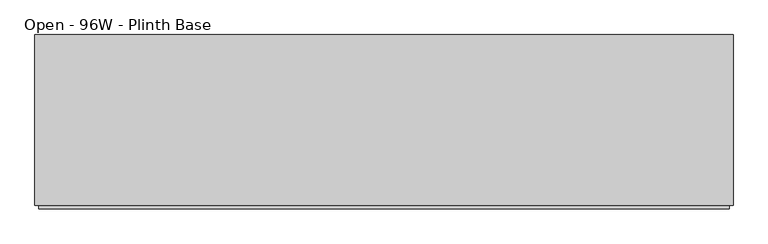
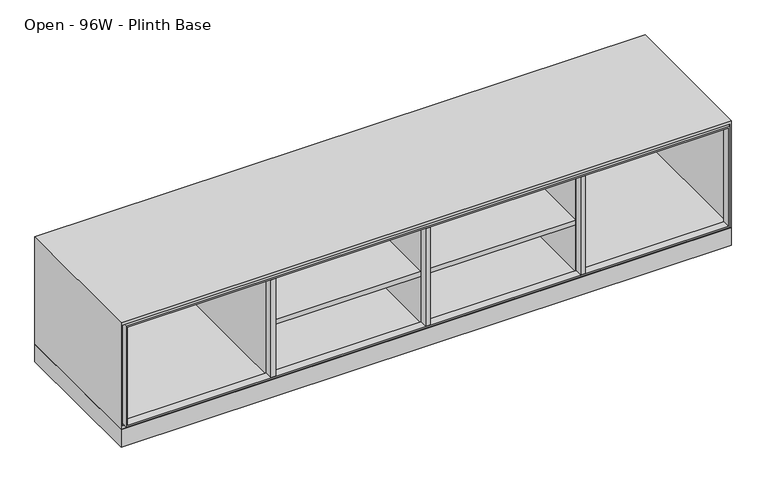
"""IFC4 building model written with IfcOpenShell, lengths in millimetres: furniture geometry, Steelcase Coalesse - Exponents - Storage - Credenza - 21H : Open - 96W - Plinth Base."""

from ifc_helpers import new_model, si_unit, point, frame, frame_2d, origin, origin_with_axes, place, context, project, spatial, polyline, circle_curve, trimmed, segment, composite_curve, outline, extrude, faceted_brep, source, transform, mapped, element, save


def open_96w_plinth_base_d262260d(model_context):
    return source(origin(), model_context, "Body", "SolidModel", [
        faceted_brep([(6.35, 31.75, 520.7), (6.35, 31.75, 95.25), (6.35, 622.3, 95.25), (6.35, 622.3, 520.7), (2432.05, 622.3, 95.25), (2432.05, 622.3, 520.7), (2432.05, 31.75, 95.25), (2432.05, 31.75, 520.7), (0.0, 31.75, 82.55), (2438.4, 31.75, 82.55), (2438.4, 31.75, 533.4), (0.0, 31.75, 533.4), (2438.4, 628.65, 82.55), (2438.4, 628.65, 533.4), (0.0, 628.65, 82.55), (0.0, 628.65, 533.4)], [[[0, 1, 2, 3]], [[3, 2, 4, 5]], [[5, 4, 6, 7]], [[8, 9, 10, 11], [7, 6, 1, 0]], [[10, 9, 12, 13]], [[13, 12, 14, 15]], [[15, 14, 8, 11]], [[7, 0, 3, 5]], [[10, 13, 15, 11]], [[1, 6, 4, 2]], [[12, 9, 8, 14]]]),
        extrude(outline(polyline([(520.7, 2425.7), (520.7, 12.7), (95.25, 12.7), (95.25, 2425.7), (520.7, 2425.7)]), holes=[polyline([(514.35, 2419.35), (101.6, 2419.35), (101.6, 19.05), (514.35, 19.05), (514.35, 2419.35)])]), frame((0.0, 19.05, 0.0), z_axis=(0.0, 1.0, 0.0), x_axis=(0.0, 0.0, 1.0)), (0.0, 0.0, 1.0), 31.75),
        extrude(outline(composite_curve([segment(trimmed(circle_curve(frame_2d((19.05, 593.5667033)), 6.35), [point((12.7, 593.5667033))], [point((25.4, 593.5667033))], False, "CARTESIAN"), True, "CONTINUOUS"), segment(trimmed(circle_curve(frame_2d((19.05, 593.5667033)), 6.35), [point((25.4, 593.5667033))], [point((12.7, 593.5667033))], False, "CARTESIAN"), True, "CONTINUOUS")], self_intersect=False)), origin_with_axes(), (0.0, 0.0, 1.0), 6.35),
        extrude(outline(composite_curve([segment(trimmed(circle_curve(frame_2d((19.05, 66.7867854)), 6.35), [point((12.7, 66.7867854))], [point((25.4, 66.7867854))], False, "CARTESIAN"), True, "CONTINUOUS"), segment(trimmed(circle_curve(frame_2d((19.05, 66.7867854)), 6.35), [point((25.4, 66.7867854))], [point((12.7, 66.7867854))], False, "CARTESIAN"), True, "CONTINUOUS")], self_intersect=False)), origin_with_axes(), (0.0, 0.0, 1.0), 6.35),
        extrude(outline(composite_curve([segment(trimmed(circle_curve(frame_2d((2419.35, 593.5667033)), 6.35), [point((2413.0, 593.5667033))], [point((2425.7, 593.5667033))], False, "CARTESIAN"), True, "CONTINUOUS"), segment(trimmed(circle_curve(frame_2d((2419.35, 593.5667033)), 6.35), [point((2425.7, 593.5667033))], [point((2413.0, 593.5667033))], False, "CARTESIAN"), True, "CONTINUOUS")], self_intersect=False)), origin_with_axes(), (0.0, 0.0, 1.0), 6.35),
        extrude(outline(composite_curve([segment(trimmed(circle_curve(frame_2d((2419.35, 66.7867854)), 6.35), [point((2413.0, 66.7867854))], [point((2425.7, 66.7867854))], False, "CARTESIAN"), True, "CONTINUOUS"), segment(trimmed(circle_curve(frame_2d((2419.35, 66.7867854)), 6.35), [point((2425.7, 66.7867854))], [point((2413.0, 66.7867854))], False, "CARTESIAN"), True, "CONTINUOUS")], self_intersect=False)), origin_with_axes(), (0.0, 0.0, 1.0), 6.35),
        extrude(outline(polyline([(0.0, -19.05), (0.0, 0.0), (31.75, 0.0), (31.75, -19.05), (0.0, -19.05)])), frame((1828.8, 19.05, 101.6), z_axis=(2.934541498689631e-12, 0.0, 1.0), x_axis=(0.0, 1.0, 0.0)), (0.0, 0.0, 1.0), 412.75),
        extrude(outline(polyline([(0.0, -19.05), (0.0, 0.0), (31.75, 0.0), (31.75, -19.05), (0.0, -19.05)])), frame((1209.675, 19.05, 101.6), z_axis=(3.1477043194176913e-12, 0.0, 1.0), x_axis=(0.0, 1.0, 0.0)), (0.0, 0.0, 1.0), 412.75),
        extrude(outline(polyline([(0.0, -19.05), (0.0, 0.0), (31.75, 0.0), (31.75, -19.05), (0.0, -19.05)])), frame((590.55, 19.05, 101.6), z_axis=(3.3608671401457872e-12, 0.0, 1.0), x_axis=(0.0, 1.0, 0.0)), (0.0, 0.0, 1.0), 412.75),
        extrude(outline(polyline([(1209.675, 609.6), (1228.725, 609.6), (1228.725, 50.8), (1209.675, 50.8), (1209.675, 609.6)])), frame((0.0, 0.0, 95.25), z_axis=(0.0, 0.0, 1.0), x_axis=(1.0, 0.0, 0.0)), (0.0, 0.0, 1.0), 425.45),
        extrude(outline(polyline([(1828.8, 609.6), (1847.85, 609.6), (1847.85, 50.8), (1828.8, 50.8), (1828.8, 609.6)])), frame((0.0, 0.0, 95.25), z_axis=(0.0, 0.0, 1.0), x_axis=(1.0, 0.0, 0.0)), (0.0, 0.0, 1.0), 425.45),
        extrude(outline(polyline([(1828.8, 50.8), (1228.725, 50.8), (1228.725, 609.6), (1828.8, 609.6), (1828.8, 50.8)])), frame((0.0, 0.0, 295.275), z_axis=(0.0, 0.0, 1.0), x_axis=(1.0, 0.0, 0.0)), (0.0, 0.0, 1.0), 19.05),
        extrude(outline(polyline([(1209.675, 50.8), (609.6, 50.8), (609.6, 609.6), (1209.675, 609.6), (1209.675, 50.8)])), frame((0.0, 0.0, 295.275), z_axis=(0.0, 0.0, 1.0), x_axis=(1.0, 0.0, 0.0)), (0.0, 0.0, 1.0), 19.05),
        extrude(outline(polyline([(2438.4, 628.65), (2438.4, 31.75), (0.0, 31.75), (0.0, 628.65), (2438.4, 628.65)]), holes=[polyline([(2419.35, 622.3), (19.05, 622.3), (19.05, 38.1), (2419.35, 38.1), (2419.35, 622.3)])]), frame((0.0, 0.0, 6.35), z_axis=(0.0, 0.0, 1.0), x_axis=(1.0, 0.0, 0.0)), (0.0, 0.0, 1.0), 73.4568),
        extrude(outline(polyline([(590.55, 609.6), (609.6, 609.6), (609.6, 50.8), (590.55, 50.8), (590.55, 609.6)])), frame((0.0, 0.0, 95.25), z_axis=(0.0, 0.0, 1.0), x_axis=(1.0, 0.0, 0.0)), (0.0, 0.0, 1.0), 425.45),
    ])


if __name__ == "__main__":
    model = new_model("IFC4")
    model_context = context("Model", 3, world=origin())
    ifc_project = project(units=[si_unit("LENGTHUNIT", "METRE", prefix="MILLI")], contexts=[model_context])
    site = spatial("IfcSite", under=ifc_project)
    building = spatial("IfcBuilding", under=site)
    placement = place(None, origin())
    open_96w_plinth_base_shape = open_96w_plinth_base_d262260d(model_context)
    element("IfcFurniture", 1, ObjectType="Steelcase Coalesse - Exponents - Storage - Credenza - 21H : Open - 96W - Plinth Base", at=placement, inside=building, context=model_context, shape_type="MappedRepresentation", body=[
        mapped(open_96w_plinth_base_shape, transform((0.0, 0.0, 0.0), x_axis=(1.0, 0.0, 0.0), y_axis=(0.0, 1.0, 0.0), z_axis=(0.0, 0.0, 1.0))),
    ])
    save(model, "model.ifc")
